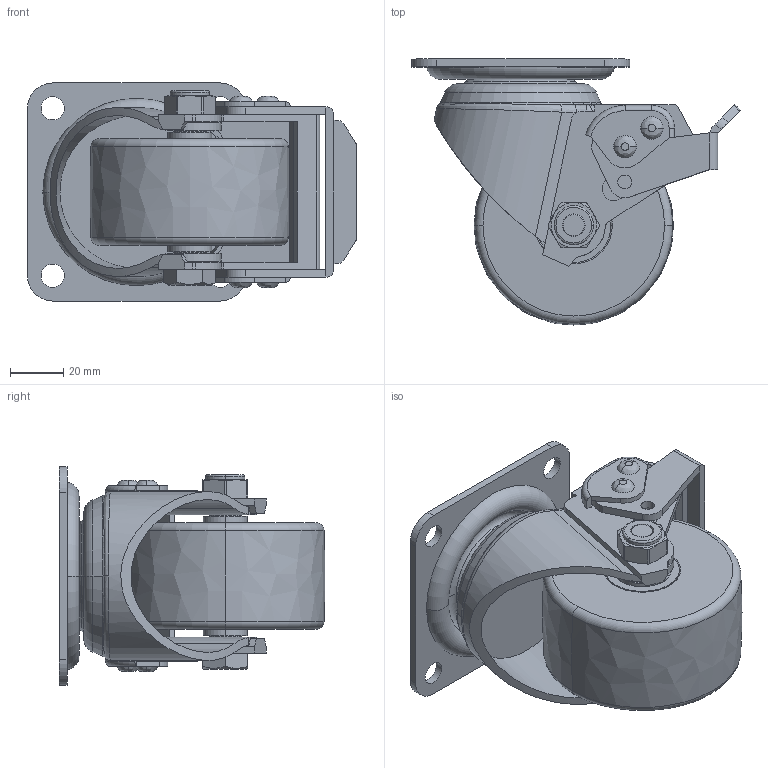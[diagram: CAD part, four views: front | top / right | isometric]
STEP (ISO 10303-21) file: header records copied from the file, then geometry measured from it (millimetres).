
FILE_DESCRIPTION((''),'2;1');
FILE_NAME('M433275-16_ASM','2022-01-15T',('lenovo'),(''),'PRO/ENGINEER BY PARAMETRIC TECHNOLOGY CORPORATION, 2010280','PRO/ENGINEER BY PARAMETRIC TECHNOLOGY CORPORATION, 2010280','');
FILE_SCHEMA(('CONFIG_CONTROL_DESIGN'));
Length unit declared in the file: millimetre
Products named in the file (13): M43375-311; M4330-201; M43075-916; 6001ZZ; 500-66; 640-54; M4375-16_ASM; M43375-535; M4330-531; M4330-461; M430-33-67; 640-34; M433275-16_ASM
Assembly tree (14 placements, depth 3):
  M433275-16_ASM
    M43375-311
    M4330-201
    M4375-16_ASM
      M43075-916
      6001ZZ  x2
      500-66  x2
      640-54
    M43375-535
    M4330-531
    M4330-461
    M430-33-67
    640-34
Bounding box: 123.69 x 99.93 x 82 mm (x, y, z)
Volume: 264940 mm3; surface area: 94844.1 mm2
Topology: 46 solids, 46 shells, 447 faces, 1114 edges, 645 vertices
Faces by surface type: cylinder 159, plane 137, sphere 62, torus 48, cone 24, bspline 17
Entity records: 12591 total; most frequent: CARTESIAN_POINT 3084, DIRECTION 2101, ORIENTED_EDGE 1824, EDGE_CURVE 912, AXIS2_PLACEMENT_3D 858, VERTEX_POINT 583, CIRCLE 451, EDGE_LOOP 441
